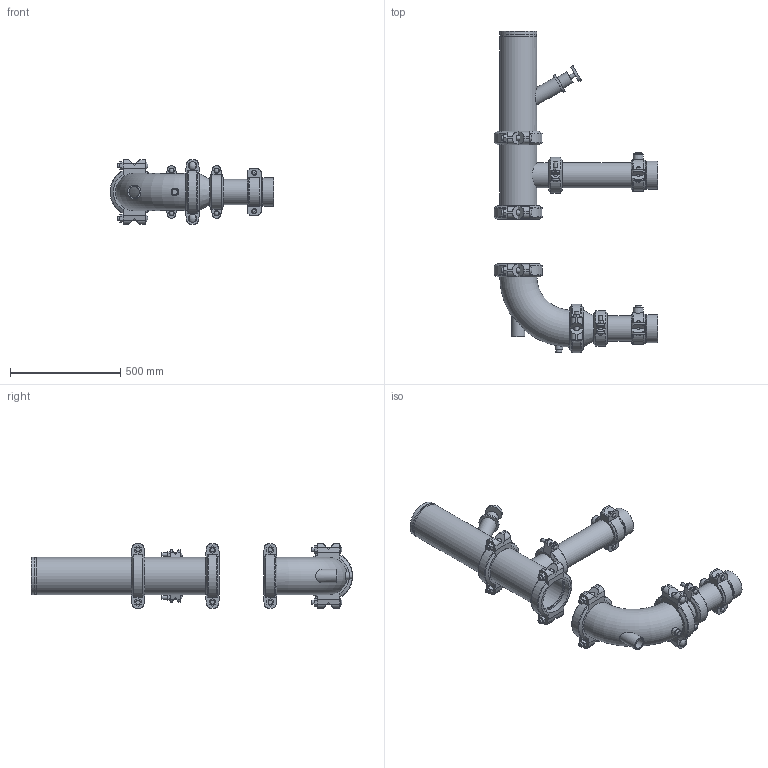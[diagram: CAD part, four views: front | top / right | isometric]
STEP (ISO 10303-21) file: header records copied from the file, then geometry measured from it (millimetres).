
FILE_DESCRIPTION(/* description */ ('VIC RVI DOUBLE COIL AHU DROP LOW PROFILE SERIES 385J (OGSxFPT)','CAx-IF Rec.Pracs.---Representation and Presentation of Product Manufacturing Information (PMI)---4.0---2014-10-13'),/* implementation_level */ '2;1');
FILE_NAME(/* name */ 'C:\Users\kkamble\AppData\Roaming\Autodesk\ApplicationPlugins\Victaulic.Temp\A836\Victaulic_IPS_RVI_Double Coil_Low Profile_Series 385J (OGSxFPT)_06.0x04.0 (150x100).stp',/* time_stamp */ '2021-03-17T12:26:39+06:00',/* author */ ('Vjadhav'),/* organization */ ('Victaulic'),/* preprocessor_version */ 'ST-DEVELOPER v17.2',/* originating_system */ 'Autodesk Inventor 2019',/* authorisation */ '');
FILE_SCHEMA (('AP242_MANAGED_MODEL_BASED_3D_ENGINEERING_MIM_LF { 1 0 10303 442 1 1 4 }'));
Length unit declared in the file: inch
Products named in the file (11): 385J-06.0x04.0; Pipe-04.0; 050-06.0x04.0; 025-06.0x04.0; 177N-06.0; 177N-04.0; Pipe_(1'-2 1/8")-04.0; 072-04.0x0.75; 080-04.0; 100G-06.0; 789-06.0
Assembly tree (16 placements, depth 2):
  385J-06.0x04.0
    080-04.0  x2
    072-04.0x0.75  x2
    Pipe-04.0
    177N-04.0  x2
    050-06.0x04.0
    177N-06.0  x4
    025-06.0x04.0
    Pipe_(1'-2 1/8")-04.0
    100G-06.0
    789-06.0
Bounding box: 741.17 x 1454.91 x 294.09 mm (x, y, z)
Volume: 14856932.2 mm3; surface area: 3033556 mm2
Topology: 16 solids, 16 shells, 874 faces, 2389 edges, 1594 vertices
Faces by surface type: plane 493, cylinder 275, torus 44, cone 38, bspline 12, sphere 12
Full cylindrical faces by diameter (mm): 10.16 x8, 14.605 x4, 15.875 x4, 19.05 x9, 20.93 x3, 22.86 x4, 23.495 x4, 26.67 x4, 34.29 x1, 37.694 x8, 48.26 x1, 57.15 x1, 60.96 x1, 69.85 x1, 76.2 x1, 92.05 x1, 101.6 x2, 102.26 x6, 110.084 x8, 114.3 x22, 127 x2, 154.051 x5, 155.575 x4, 163.957 x7, 168.275 x18
Entity records: 14624 total; most frequent: CARTESIAN_POINT 3113, DIRECTION 2363, ORIENTED_EDGE 2176, EDGE_CURVE 1088, AXIS2_PLACEMENT_3D 928, VERTEX_POINT 740, LINE 507, VECTOR 507
